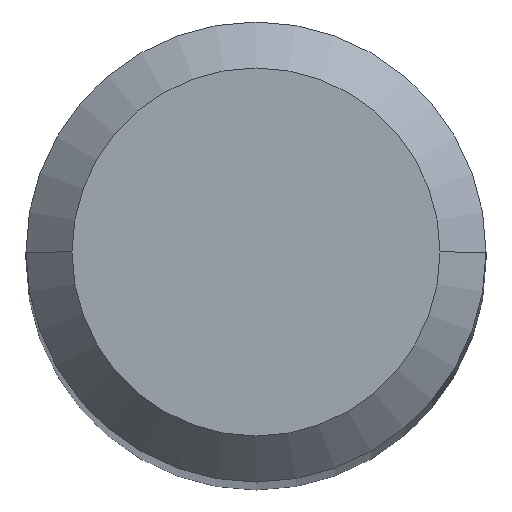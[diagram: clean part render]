
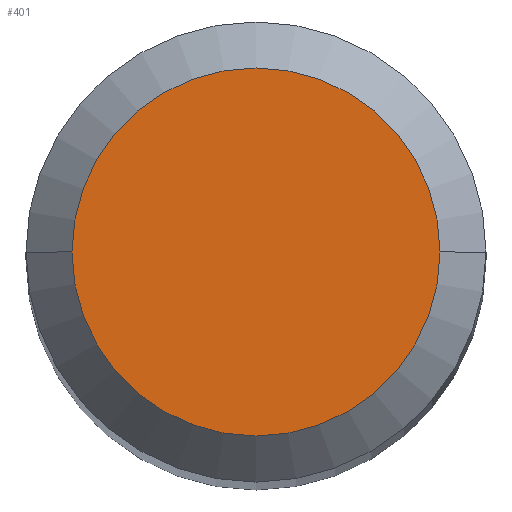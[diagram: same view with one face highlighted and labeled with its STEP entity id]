
A CAD part, top view. The second image highlights one B-rep face of the part: STEP entity #401.
In plain terms, the highlighted planar face has unit normal (0, 0, 1).
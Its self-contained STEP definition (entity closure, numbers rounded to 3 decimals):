
#5 = DIRECTION ( 'NONE',  ( 0., 0., 1. ) ) ;
#133 = FACE_OUTER_BOUND ( 'NONE', #491, .T. ) ;
#156 = VERTEX_POINT ( 'NONE', #621 ) ;
#206 = ORIENTED_EDGE ( 'NONE', *, *, #721, .F. ) ;
#212 = AXIS2_PLACEMENT_3D ( 'NONE', #634, #5, #702 ) ;
#214 = CARTESIAN_POINT ( 'NONE',  ( 1.4, 0., 0. ) ) ;
#310 = AXIS2_PLACEMENT_3D ( 'NONE', #460, #470, #402 ) ;
#332 = DIRECTION ( 'NONE',  ( 0., 0., -1. ) ) ;
#396 = DIRECTION ( 'NONE',  ( -1., 0., 0. ) ) ;
#397 = PLANE ( 'NONE',  #212 ) ;
#401 = ADVANCED_FACE ( 'NONE', ( #133 ), #397, .T. ) ;
#402 = DIRECTION ( 'NONE',  ( -1., 0., 0. ) ) ;
#413 = EDGE_CURVE ( 'NONE', #156, #723, #629, .T. ) ;
#458 = CARTESIAN_POINT ( 'NONE',  ( 0., 0., 0. ) ) ;
#460 = CARTESIAN_POINT ( 'NONE',  ( 0., 0., 0. ) ) ;
#470 = DIRECTION ( 'NONE',  ( 0., 0., -1. ) ) ;
#476 = ORIENTED_EDGE ( 'NONE', *, *, #413, .F. ) ;
#491 = EDGE_LOOP ( 'NONE', ( #476, #206 ) ) ;
#610 = CIRCLE ( 'NONE', #732, 1.4 ) ;
#621 = CARTESIAN_POINT ( 'NONE',  ( -1.4, 0., 0. ) ) ;
#629 = CIRCLE ( 'NONE', #310, 1.4 ) ;
#634 = CARTESIAN_POINT ( 'NONE',  ( 0., 1.4, 0. ) ) ;
#702 = DIRECTION ( 'NONE',  ( 1., 0., 0. ) ) ;
#721 = EDGE_CURVE ( 'NONE', #723, #156, #610, .T. ) ;
#723 = VERTEX_POINT ( 'NONE', #214 ) ;
#732 = AXIS2_PLACEMENT_3D ( 'NONE', #458, #332, #396 ) ;
